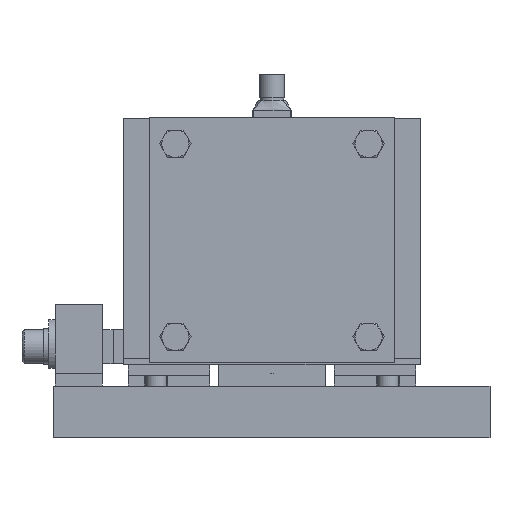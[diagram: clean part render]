
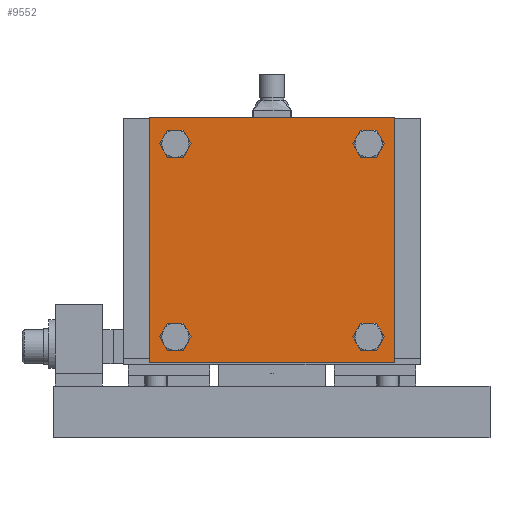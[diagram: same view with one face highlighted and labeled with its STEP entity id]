
A CAD part, front view. The second image highlights one B-rep face of the part: STEP entity #9552.
In plain terms, the highlighted planar face has unit normal (0, -1, 0) as drawn and (0, 0, 1) by its records, which use the part's own axes.
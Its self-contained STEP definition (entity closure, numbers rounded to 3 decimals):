
#749=LINE($,#15508,#1409);
#753=LINE($,#15516,#1413);
#756=LINE($,#15522,#1416);
#759=LINE($,#15527,#1419);
#1409=VECTOR($,#12386,114.3);
#1413=VECTOR($,#12392,114.3);
#1416=VECTOR($,#12397,114.3);
#1419=VECTOR($,#12402,114.3);
#1926=PLANE($,#10469);
#2311=FACE_BOUND($,#3818,.T.);
#2312=FACE_BOUND($,#3819,.T.);
#2313=FACE_BOUND($,#3820,.T.);
#2314=FACE_BOUND($,#3821,.T.);
#3016=FACE_OUTER_BOUND($,#3817,.T.);
#3817=EDGE_LOOP($,(#7892,#7893,#7894,#7895));
#3818=EDGE_LOOP($,(#7896));
#3819=EDGE_LOOP($,(#7897));
#3820=EDGE_LOOP($,(#7898));
#3821=EDGE_LOOP($,(#7899));
#4614=CIRCLE($,#10447,4.25);
#4616=CIRCLE($,#10450,4.25);
#4618=CIRCLE($,#10453,4.25);
#4620=CIRCLE($,#10456,4.25);
#5227=VERTEX_POINT($,#15476);
#5229=VERTEX_POINT($,#15481);
#5231=VERTEX_POINT($,#15486);
#5233=VERTEX_POINT($,#15491);
#5238=VERTEX_POINT($,#15506);
#5239=VERTEX_POINT($,#15507);
#5242=VERTEX_POINT($,#15515);
#5244=VERTEX_POINT($,#15521);
#6218=EDGE_CURVE($,#5227,#5227,#4614,.T.);
#6220=EDGE_CURVE($,#5229,#5229,#4616,.T.);
#6222=EDGE_CURVE($,#5231,#5231,#4618,.T.);
#6224=EDGE_CURVE($,#5233,#5233,#4620,.T.);
#6229=EDGE_CURVE($,#5238,#5239,#749,.T.);
#6233=EDGE_CURVE($,#5239,#5242,#753,.T.);
#6236=EDGE_CURVE($,#5242,#5244,#756,.T.);
#6239=EDGE_CURVE($,#5244,#5238,#759,.T.);
#7892=ORIENTED_EDGE($,*,*,#6229,.F.);
#7893=ORIENTED_EDGE($,*,*,#6239,.F.);
#7894=ORIENTED_EDGE($,*,*,#6236,.F.);
#7895=ORIENTED_EDGE($,*,*,#6233,.F.);
#7896=ORIENTED_EDGE($,*,*,#6218,.T.);
#7897=ORIENTED_EDGE($,*,*,#6220,.T.);
#7898=ORIENTED_EDGE($,*,*,#6222,.T.);
#7899=ORIENTED_EDGE($,*,*,#6224,.T.);
#9552=ADVANCED_FACE($,(#3016,#2311,#2312,#2313,#2314),#1926,.T.);
#10447=AXIS2_PLACEMENT_3D($,#15477,#12348,#12349);
#10450=AXIS2_PLACEMENT_3D($,#15482,#12354,#12355);
#10453=AXIS2_PLACEMENT_3D($,#15487,#12360,#12361);
#10456=AXIS2_PLACEMENT_3D($,#15492,#12366,#12367);
#10469=AXIS2_PLACEMENT_3D($,#15529,#12404,#12405);
#12348=DIRECTION('center_axis',(0.,0.,-1.));
#12349=DIRECTION('ref_axis',(1.,0.,0.));
#12354=DIRECTION('center_axis',(0.,0.,-1.));
#12355=DIRECTION('ref_axis',(1.,0.,0.));
#12360=DIRECTION('center_axis',(0.,0.,-1.));
#12361=DIRECTION('ref_axis',(1.,0.,0.));
#12366=DIRECTION('center_axis',(0.,0.,-1.));
#12367=DIRECTION('ref_axis',(1.,0.,0.));
#12386=DIRECTION($,(0.,-1.,0.));
#12392=DIRECTION($,(-1.,0.,0.));
#12397=DIRECTION($,(0.,1.,0.));
#12402=DIRECTION($,(1.,0.,0.));
#12404=DIRECTION('center_axis',(0.,0.,1.));
#12405=DIRECTION('ref_axis',(1.,0.,0.));
#15476=CARTESIAN_POINT('',(49.25,-45.,30.));
#15477=CARTESIAN_POINT('Origin',(45.,-45.,30.));
#15481=CARTESIAN_POINT('',(49.25,45.,30.));
#15482=CARTESIAN_POINT('Origin',(45.,45.,30.));
#15486=CARTESIAN_POINT('',(-40.75,45.,30.));
#15487=CARTESIAN_POINT('Origin',(-45.,45.,30.));
#15491=CARTESIAN_POINT('',(-40.75,-45.,30.));
#15492=CARTESIAN_POINT('Origin',(-45.,-45.,30.));
#15506=CARTESIAN_POINT('',(57.15,57.15,30.));
#15507=CARTESIAN_POINT('',(57.15,-57.15,30.));
#15508=CARTESIAN_POINT($,(57.15,57.15,30.));
#15515=CARTESIAN_POINT('',(-57.15,-57.15,30.));
#15516=CARTESIAN_POINT($,(57.15,-57.15,30.));
#15521=CARTESIAN_POINT('',(-57.15,57.15,30.));
#15522=CARTESIAN_POINT($,(-57.15,-57.15,30.));
#15527=CARTESIAN_POINT($,(-57.15,57.15,30.));
#15529=CARTESIAN_POINT('Origin',(0.,0.,
30.));
